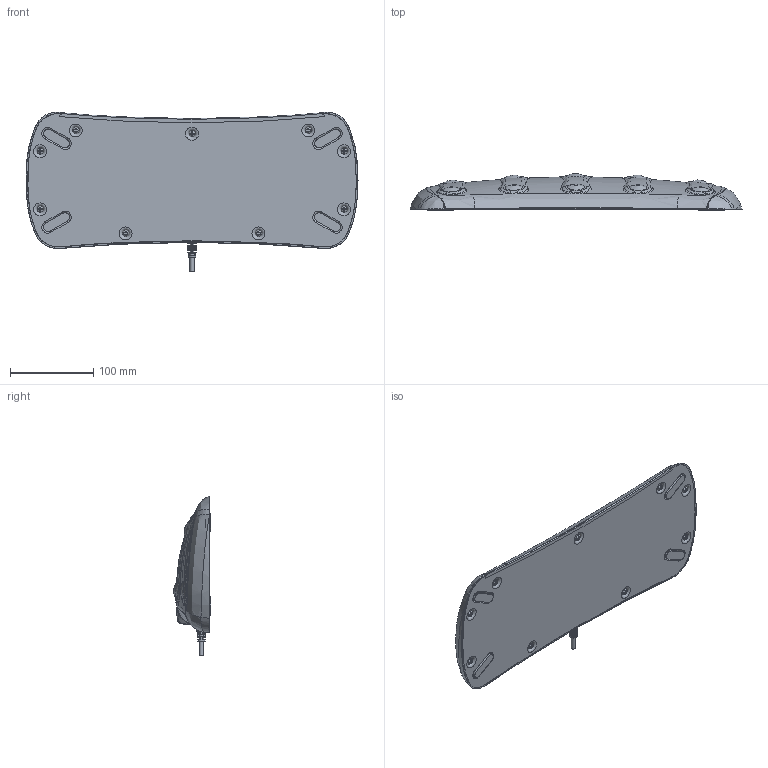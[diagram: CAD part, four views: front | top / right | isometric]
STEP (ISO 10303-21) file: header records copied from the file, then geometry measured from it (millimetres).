
FILE_DESCRIPTION (( 'STEP AP214' ), '1' );
FILE_NAME ('TFS6-A.STEP', '2019-06-19T03:39:52', ( '' ), ( '' ), 'SwSTEP 2.0', 'SolidWorks 2015', '' );
FILE_SCHEMA (( 'AUTOMOTIVE_DESIGN' ));
Length unit declared in the file: millimetre
Products named in the file (1): TFS6-A
Bounding box: 399.86 x 44.87 x 192.67 mm (x, y, z)
Volume: 1641860 mm3; surface area: 311371.6 mm2
Topology: 17 solids, 17 shells, 739 faces, 1820 edges, 1146 vertices
Faces by surface type: bspline 338, plane 203, cylinder 145, torus 43, cone 10
Full cylindrical faces by diameter (mm): 5.3 x1, 7.6 x9
Entity records: 53816 total; most frequent: CARTESIAN_POINT 30976, ORIENTED_EDGE 3482, DIRECTION 2216, EDGE_CURVE 1741, VERTEX_POINT 1120, AXIS2_PLACEMENT_3D 918, B_SPLINE_CURVE_WITH_KNOTS 845, EDGE_LOOP 823
